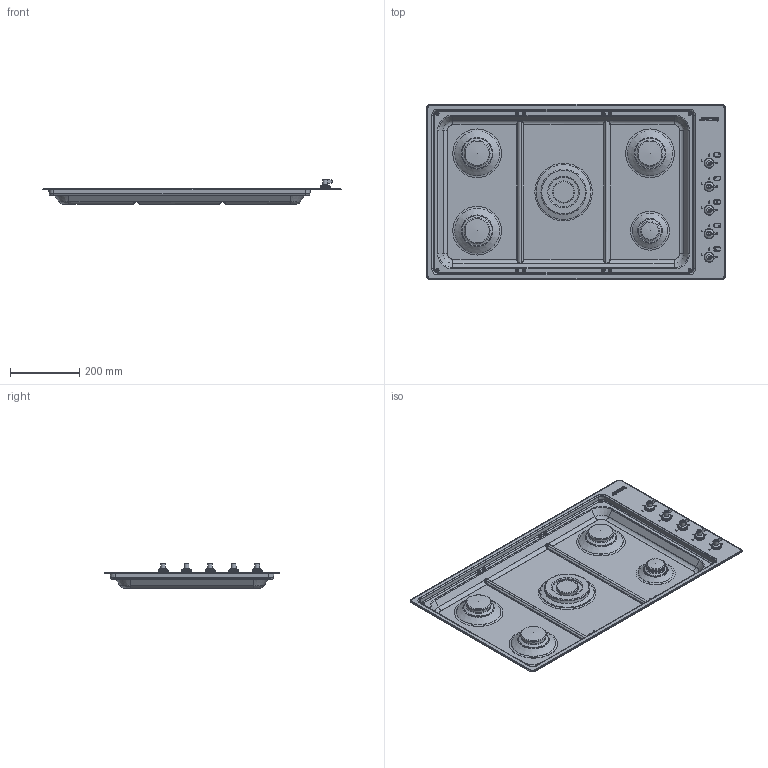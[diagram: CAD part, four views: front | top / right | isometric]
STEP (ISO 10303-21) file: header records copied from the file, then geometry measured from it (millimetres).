
FILE_DESCRIPTION(/* description */ (''),/* implementation_level */ '2;1');
FILE_NAME(/* name */ 'PGF95-4.stp',/* time_stamp */ '2015-04-28T11:23:43+02:00',/* author */ (''),/* organization */ (''),/* preprocessor_version */ 'ST-DEVELOPER v11',/* originating_system */ 'SIEMENS PLM Software NX 7.5',/* authorisation */ '');
FILE_SCHEMA (('AUTOMOTIVE_DESIGN { 1 0 10303 214 1 1 1 1 }'));
Length unit declared in the file: millimetre
Products named in the file (1): FAVE730Ci95k
Bounding box: 863.83 x 508.83 x 70.4 mm (x, y, z)
Volume: 1076511.1 mm3; surface area: 1186471 mm2
Topology: 34 solids, 34 shells, 1327 faces, 3007 edges, 1875 vertices
Faces by surface type: cylinder 506, plane 482, torus 189, cone 79, bspline 48, sphere 15, revolution 8
Full cylindrical faces by diameter (mm): 1 x24, 3.2 x5, 3.5 x20, 4 x5, 4.2 x5, 4.5 x4, 5 x5, 6 x8, 6.5 x1, 8 x5, 13.5 x5, 18 x5, 20 x5, 21.6 x1, 22 x1, 26 x1, 27 x5, 29 x5, 40.6 x3, 51 x1, 55 x1, 62 x1, 63.5 x1, 63.9 x1, 65.5 x1, 71 x3, 75 x3, 85.5 x3, 86.2 x1, 92 x1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
Entity records: 45549 total; most frequent: CARTESIAN_POINT 14974, DIRECTION 6223, ORIENTED_EDGE 5310, EDGE_CURVE 2655, AXIS2_PLACEMENT_3D 2600, VERTEX_POINT 1813, EDGE_LOOP 1801, ADVANCED_FACE 1327
